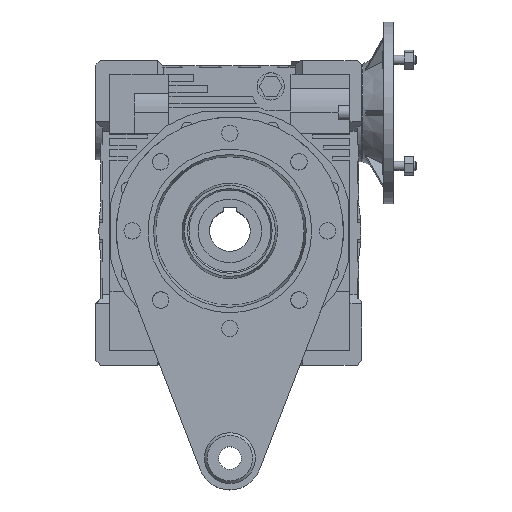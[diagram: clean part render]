
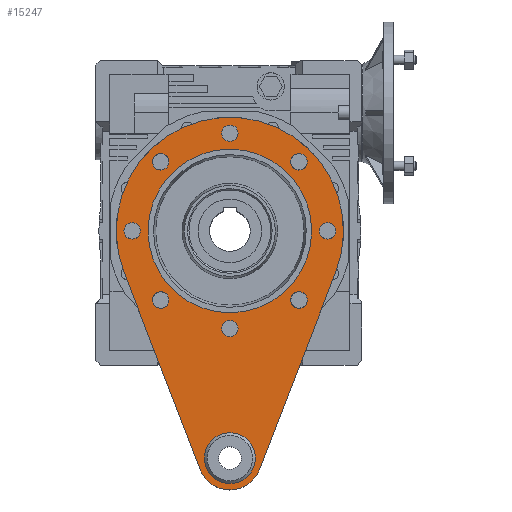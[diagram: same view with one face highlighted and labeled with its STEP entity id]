
A CAD part, top view. The second image highlights one B-rep face of the part: STEP entity #15247.
In plain terms, the highlighted planar face has unit normal (0, 0, 1).
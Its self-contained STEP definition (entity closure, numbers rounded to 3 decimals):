
#575=CIRCLE('',#16511,125.);
#576=CIRCLE('',#16514,90.);
#579=CIRCLE('',#16518,35.);
#580=CIRCLE('',#16520,9.);
#581=CIRCLE('',#16521,9.);
#582=CIRCLE('',#16522,9.);
#583=CIRCLE('',#16523,9.);
#584=CIRCLE('',#16524,9.);
#585=CIRCLE('',#16525,9.);
#586=CIRCLE('',#16526,9.);
#587=CIRCLE('',#16527,9.);
#588=CIRCLE('',#16528,28.);
#4312=ORIENTED_EDGE('',*,*,#6828,.T.);
#4313=ORIENTED_EDGE('',*,*,#6829,.T.);
#4314=ORIENTED_EDGE('',*,*,#6830,.T.);
#4315=ORIENTED_EDGE('',*,*,#6831,.T.);
#4316=ORIENTED_EDGE('',*,*,#6832,.T.);
#4317=ORIENTED_EDGE('',*,*,#6833,.T.);
#4318=ORIENTED_EDGE('',*,*,#6834,.T.);
#4319=ORIENTED_EDGE('',*,*,#6835,.T.);
#4320=ORIENTED_EDGE('',*,*,#6836,.T.);
#4321=ORIENTED_EDGE('',*,*,#6824,.F.);
#4322=ORIENTED_EDGE('',*,*,#6816,.T.);
#4323=ORIENTED_EDGE('',*,*,#6820,.T.);
#4324=ORIENTED_EDGE('',*,*,#6823,.T.);
#4325=ORIENTED_EDGE('',*,*,#6827,.T.);
#6816=EDGE_CURVE('',#8413,#8412,#10020,.T.);
#6820=EDGE_CURVE('',#8412,#8415,#575,.T.);
#6823=EDGE_CURVE('',#8415,#8417,#10025,.T.);
#6824=EDGE_CURVE('',#8418,#8418,#576,.T.);
#6827=EDGE_CURVE('',#8417,#8413,#579,.T.);
#6828=EDGE_CURVE('',#8420,#8420,#580,.F.);
#6829=EDGE_CURVE('',#8421,#8421,#581,.F.);
#6830=EDGE_CURVE('',#8422,#8422,#582,.F.);
#6831=EDGE_CURVE('',#8423,#8423,#583,.F.);
#6832=EDGE_CURVE('',#8424,#8424,#584,.F.);
#6833=EDGE_CURVE('',#8425,#8425,#585,.F.);
#6834=EDGE_CURVE('',#8426,#8426,#586,.F.);
#6835=EDGE_CURVE('',#8427,#8427,#587,.F.);
#6836=EDGE_CURVE('',#8428,#8428,#588,.T.);
#8412=VERTEX_POINT('',#24724);
#8413=VERTEX_POINT('',#24726);
#8415=VERTEX_POINT('',#24732);
#8417=VERTEX_POINT('',#24738);
#8418=VERTEX_POINT('',#24742);
#8420=VERTEX_POINT('',#24750);
#8421=VERTEX_POINT('',#24752);
#8422=VERTEX_POINT('',#24754);
#8423=VERTEX_POINT('',#24756);
#8424=VERTEX_POINT('',#24758);
#8425=VERTEX_POINT('',#24760);
#8426=VERTEX_POINT('',#24762);
#8427=VERTEX_POINT('',#24764);
#8428=VERTEX_POINT('',#24766);
#10020=LINE('',#24725,#11539);
#10025=LINE('',#24739,#11544);
#11539=VECTOR('',#20258,1000.);
#11544=VECTOR('',#20271,1000.);
#12572=EDGE_LOOP('',(#4312));
#12573=EDGE_LOOP('',(#4313));
#12574=EDGE_LOOP('',(#4314));
#12575=EDGE_LOOP('',(#4315));
#12576=EDGE_LOOP('',(#4316));
#12577=EDGE_LOOP('',(#4317));
#12578=EDGE_LOOP('',(#4318));
#12579=EDGE_LOOP('',(#4319));
#12580=EDGE_LOOP('',(#4320));
#12581=EDGE_LOOP('',(#4321));
#12582=EDGE_LOOP('',(#4322,#4323,#4324,#4325));
#13689=FACE_BOUND('',#12572,.T.);
#13690=FACE_BOUND('',#12573,.T.);
#13691=FACE_BOUND('',#12574,.T.);
#13692=FACE_BOUND('',#12575,.T.);
#13693=FACE_BOUND('',#12576,.T.);
#13694=FACE_BOUND('',#12577,.T.);
#13695=FACE_BOUND('',#12578,.T.);
#13696=FACE_BOUND('',#12579,.T.);
#13697=FACE_BOUND('',#12580,.T.);
#13698=FACE_BOUND('',#12581,.T.);
#13699=FACE_BOUND('',#12582,.T.);
#14447=PLANE('',#16519);
#15247=ADVANCED_FACE('',(#13689,#13690,#13691,#13692,#13693,#13694,#13695,
#13696,#13697,#13698,#13699),#14447,.T.);
#16511=AXIS2_PLACEMENT_3D('',#24733,#20265,#20266);
#16514=AXIS2_PLACEMENT_3D('',#24741,#20274,#20275);
#16518=AXIS2_PLACEMENT_3D('',#24747,#20282,#20283);
#16519=AXIS2_PLACEMENT_3D('',#24748,#20284,#20285);
#16520=AXIS2_PLACEMENT_3D('',#24749,#20286,#20287);
#16521=AXIS2_PLACEMENT_3D('',#24751,#20288,#20289);
#16522=AXIS2_PLACEMENT_3D('',#24753,#20290,#20291);
#16523=AXIS2_PLACEMENT_3D('',#24755,#20292,#20293);
#16524=AXIS2_PLACEMENT_3D('',#24757,#20294,#20295);
#16525=AXIS2_PLACEMENT_3D('',#24759,#20296,#20297);
#16526=AXIS2_PLACEMENT_3D('',#24761,#20298,#20299);
#16527=AXIS2_PLACEMENT_3D('',#24763,#20300,#20301);
#16528=AXIS2_PLACEMENT_3D('',#24765,#20302,#20303);
#20258=DIRECTION('',(0.36,0.933,0.));
#20265=DIRECTION('',(0.,0.,1.));
#20266=DIRECTION('',(1.,0.,0.));
#20271=DIRECTION('',(0.36,-0.933,0.));
#20274=DIRECTION('',(0.,0.,1.));
#20275=DIRECTION('',(1.,0.,0.));
#20282=DIRECTION('',(0.,0.,1.));
#20283=DIRECTION('',(1.,0.,0.));
#20284=DIRECTION('',(0.,0.,1.));
#20285=DIRECTION('',(1.,0.,0.));
#20286=DIRECTION('',(0.,0.,1.));
#20287=DIRECTION('',(1.,0.,0.));
#20288=DIRECTION('',(0.,0.,1.));
#20289=DIRECTION('',(1.,0.,0.));
#20290=DIRECTION('',(0.,0.,1.));
#20291=DIRECTION('',(1.,0.,0.));
#20292=DIRECTION('',(0.,0.,1.));
#20293=DIRECTION('',(1.,0.,0.));
#20294=DIRECTION('',(0.,0.,1.));
#20295=DIRECTION('',(1.,0.,0.));
#20296=DIRECTION('',(0.,0.,1.));
#20297=DIRECTION('',(1.,0.,0.));
#20298=DIRECTION('',(0.,0.,1.));
#20299=DIRECTION('',(1.,0.,0.));
#20300=DIRECTION('',(0.,0.,1.));
#20301=DIRECTION('',(1.,0.,0.));
#20302=DIRECTION('',(0.,0.,-1.));
#20303=DIRECTION('',(-1.,0.,0.));
#24724=CARTESIAN_POINT('',(116.619,-45.,3.));
#24725=CARTESIAN_POINT('',(32.653,-262.6,3.));
#24726=CARTESIAN_POINT('',(32.653,-262.6,3.));
#24732=CARTESIAN_POINT('',(-116.619,-45.,3.));
#24733=CARTESIAN_POINT('',(0.,0.,3.));
#24738=CARTESIAN_POINT('',(-32.653,-262.6,3.));
#24739=CARTESIAN_POINT('',(-116.619,-45.,3.));
#24741=CARTESIAN_POINT('',(0.,0.,3.));
#24742=CARTESIAN_POINT('',(90.,0.,3.));
#24747=CARTESIAN_POINT('',(0.,-250.,3.));
#24748=CARTESIAN_POINT('',(0.,0.,3.));
#24749=CARTESIAN_POINT('',(-107.5,0.,3.));
#24750=CARTESIAN_POINT('',(-98.5,0.,3.));
#24751=CARTESIAN_POINT('',(-76.014,-76.014,3.));
#24752=CARTESIAN_POINT('',(-67.014,-76.014,3.));
#24753=CARTESIAN_POINT('',(0.,-107.5,3.));
#24754=CARTESIAN_POINT('',(9.,-107.5,3.));
#24755=CARTESIAN_POINT('',(76.014,-76.014,3.));
#24756=CARTESIAN_POINT('',(85.014,-76.014,3.));
#24757=CARTESIAN_POINT('',(107.5,0.,3.));
#24758=CARTESIAN_POINT('',(116.5,0.,3.));
#24759=CARTESIAN_POINT('',(76.014,76.014,3.));
#24760=CARTESIAN_POINT('',(85.014,76.014,3.));
#24761=CARTESIAN_POINT('',(-76.014,76.014,3.));
#24762=CARTESIAN_POINT('',(-67.014,76.014,3.));
#24763=CARTESIAN_POINT('',(0.,107.5,3.));
#24764=CARTESIAN_POINT('',(9.,107.5,3.));
#24765=CARTESIAN_POINT('',(0.,-250.,3.));
#24766=CARTESIAN_POINT('',(-28.,-250.,3.));
